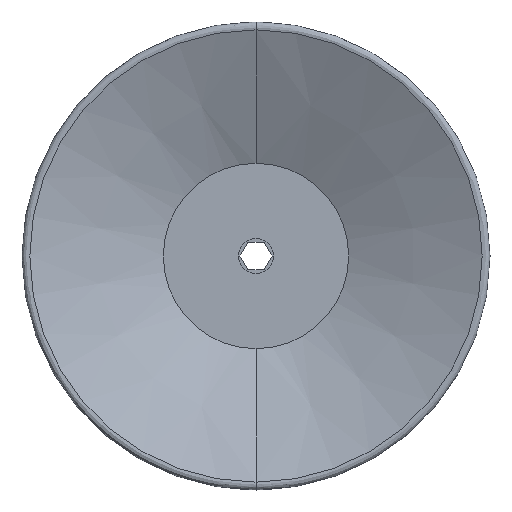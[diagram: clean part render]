
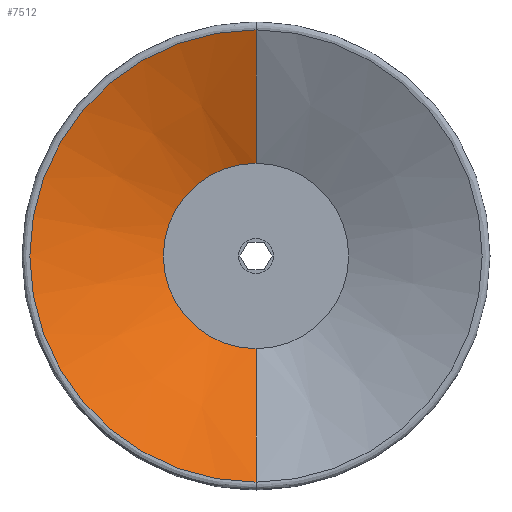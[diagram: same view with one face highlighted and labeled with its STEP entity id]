
A CAD part, front view. The second image highlights one B-rep face of the part: STEP entity #7512.
In plain terms, the highlighted conical face has half-angle 65.887 degrees and reference radius 48.81 mm.
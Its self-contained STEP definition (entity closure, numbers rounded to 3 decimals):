
#242 = LINE ( 'NONE', #8338, #8704 ) ;
#734 = EDGE_CURVE ( 'NONE', #13627, #11743, #5676, .T. ) ;
#827 = CARTESIAN_POINT ( 'NONE',  ( 0., -15., 20. ) ) ;
#863 = CIRCLE ( 'NONE', #10051, 48.81 ) ;
#1038 = CARTESIAN_POINT ( 'NONE',  ( 0., -27.895, -48.81 ) ) ;
#1951 = EDGE_LOOP ( 'NONE', ( #12554, #2787, #7762, #7849 ) ) ;
#2090 = DIRECTION ( 'NONE',  ( 0., 0., -1. ) ) ;
#2141 = CONICAL_SURFACE ( 'NONE', #10868, 48.81, 1.15 ) ;
#2285 = EDGE_CURVE ( 'NONE', #3708, #13627, #7114, .T. ) ;
#2787 = ORIENTED_EDGE ( 'NONE', *, *, #3482, .T. ) ;
#3310 = DIRECTION ( 'NONE',  ( 0., 0., -1. ) ) ;
#3482 = EDGE_CURVE ( 'NONE', #3708, #6203, #242, .T. ) ;
#3708 = VERTEX_POINT ( 'NONE', #827 ) ;
#4452 = DIRECTION ( 'NONE',  ( 0., -0.409, 0.913 ) ) ;
#4505 = DIRECTION ( 'NONE',  ( 0., -1., 0. ) ) ;
#4558 = DIRECTION ( 'NONE',  ( 0., -0.409, -0.913 ) ) ;
#5159 = DIRECTION ( 'NONE',  ( 0., 0., 1. ) ) ;
#5182 = EDGE_CURVE ( 'NONE', #11743, #6203, #863, .T. ) ;
#5512 = CARTESIAN_POINT ( 'NONE',  ( 0., -15., 0. ) ) ;
#5588 = DIRECTION ( 'NONE',  ( 0., -1., 0. ) ) ;
#5676 = LINE ( 'NONE', #10937, #7599 ) ;
#5906 = CARTESIAN_POINT ( 'NONE',  ( 0., -27.895, 48.81 ) ) ;
#6203 = VERTEX_POINT ( 'NONE', #5906 ) ;
#7114 = CIRCLE ( 'NONE', #9130, 20. ) ;
#7512 = ADVANCED_FACE ( 'NONE', ( #11849 ), #2141, .F. ) ;
#7599 = VECTOR ( 'NONE', #4558, 1000. ) ;
#7762 = ORIENTED_EDGE ( 'NONE', *, *, #5182, .F. ) ;
#7849 = ORIENTED_EDGE ( 'NONE', *, *, #734, .F. ) ;
#7984 = CARTESIAN_POINT ( 'NONE',  ( 0., -15., -20. ) ) ;
#8338 = CARTESIAN_POINT ( 'NONE',  ( 0., -27.895, 48.81 ) ) ;
#8704 = VECTOR ( 'NONE', #4452, 1000. ) ;
#9130 = AXIS2_PLACEMENT_3D ( 'NONE', #5512, #5588, #2090 ) ;
#10051 = AXIS2_PLACEMENT_3D ( 'NONE', #11468, #13753, #5159 ) ;
#10868 = AXIS2_PLACEMENT_3D ( 'NONE', #12894, #4505, #3310 ) ;
#10937 = CARTESIAN_POINT ( 'NONE',  ( 0., -27.895, -48.81 ) ) ;
#11468 = CARTESIAN_POINT ( 'NONE',  ( 0., -27.895, 0. ) ) ;
#11743 = VERTEX_POINT ( 'NONE', #1038 ) ;
#11849 = FACE_OUTER_BOUND ( 'NONE', #1951, .T. ) ;
#12554 = ORIENTED_EDGE ( 'NONE', *, *, #2285, .F. ) ;
#12894 = CARTESIAN_POINT ( 'NONE',  ( 0., -27.895, 0. ) ) ;
#13627 = VERTEX_POINT ( 'NONE', #7984 ) ;
#13753 = DIRECTION ( 'NONE',  ( 0., 1., 0. ) ) ;
